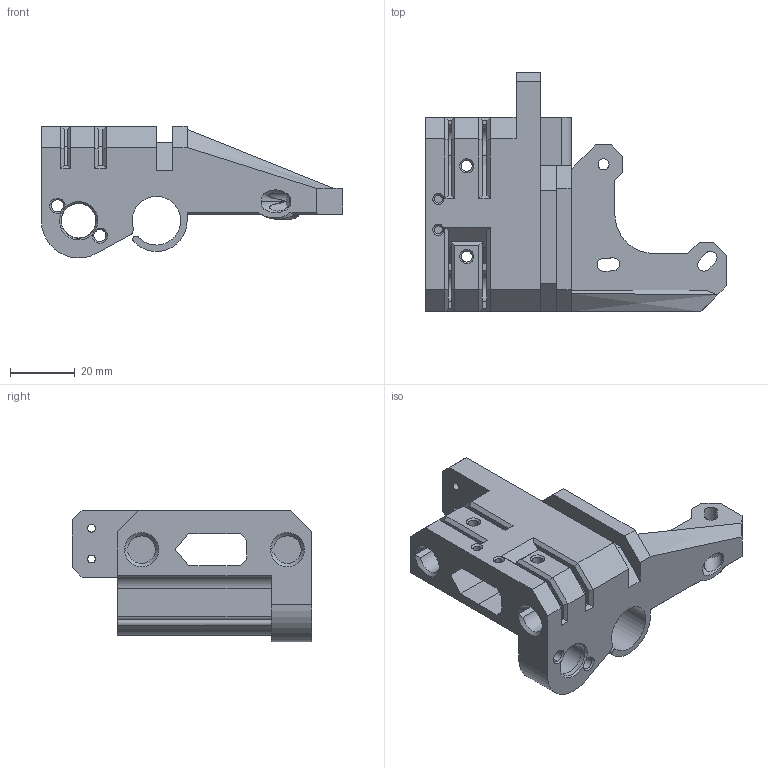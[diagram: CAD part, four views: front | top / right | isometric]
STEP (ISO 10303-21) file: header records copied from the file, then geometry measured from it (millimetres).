
FILE_DESCRIPTION(('CATIA V5 STEP Exchange'),'2;1');
FILE_NAME('D:\_이전 노트북\Cremaker모델링\Cremaker_profile-Metal(5차)-(Final)\X-block-L.stp','2020-10-23T05:44:53+00:00',('none'),('none'),'CATIA Version 5 Release 20 GA (IN-10)','CATIA V5 STEP AP203','none');
FILE_SCHEMA(('CONFIG_CONTROL_DESIGN'));
Length unit declared in the file: millimetre
Products named in the file (1): X-block-L
Bounding box: 93 x 73.94 x 40.75 mm (x, y, z)
Volume: 64580.7 mm3; surface area: 26784.8 mm2
Topology: 1 solids, 1 shells, 238 faces, 668 edges, 433 vertices
Faces by surface type: plane 157, cylinder 54, cone 22, bspline 5
Entity records: 7935 total; most frequent: CARTESIAN_POINT 2115, ORIENTED_EDGE 1330, DIRECTION 941, EDGE_CURVE 665, VECTOR 463, LINE 463, VERTEX_POINT 429, AXIS2_PLACEMENT_3D 304
